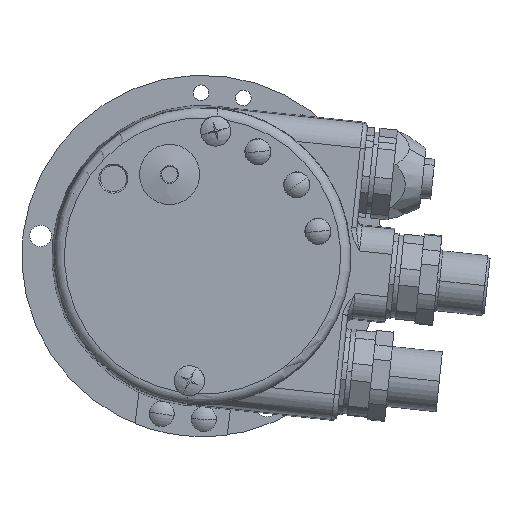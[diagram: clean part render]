
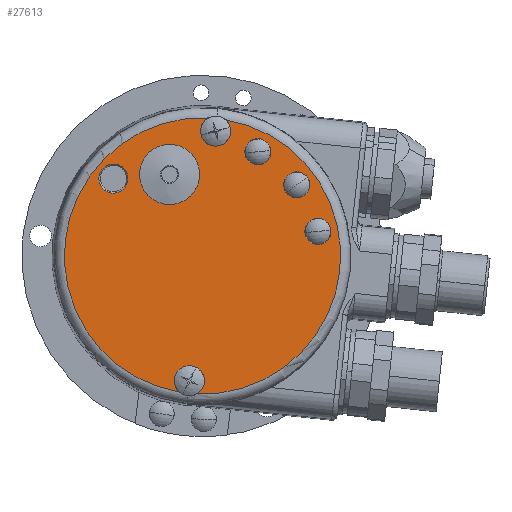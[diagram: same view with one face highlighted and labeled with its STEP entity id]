
A CAD part, left-side view. The second image highlights one B-rep face of the part: STEP entity #27613.
In plain terms, the highlighted planar face has unit normal (-1, 0, 0).
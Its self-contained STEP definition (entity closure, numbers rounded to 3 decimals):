
#13 = EDGE_CURVE ( 'NONE', #8201, #8176, #11959, .T. ) ;
#14 = ORIENTED_EDGE ( 'NONE', *, *, #13, .F. ) ;
#15 = VERTEX_POINT ( 'NONE', #11954 ) ;
#16 = ORIENTED_EDGE ( 'NONE', *, *, #8191, .T. ) ;
#17 = ORIENTED_EDGE ( 'NONE', *, *, #19, .T. ) ;
#18 = VERTEX_POINT ( 'NONE', #11953 ) ;
#19 = EDGE_CURVE ( 'NONE', #8233, #18, #11951, .T. ) ;
#20 = ORIENTED_EDGE ( 'NONE', *, *, #26, .F. ) ;
#21 = VERTEX_POINT ( 'NONE', #11952 ) ;
#22 = ORIENTED_EDGE ( 'NONE', *, *, #32, .F. ) ;
#23 = EDGE_LOOP ( 'NONE', ( #22, #20 ) ) ;
#24 = ORIENTED_EDGE ( 'NONE', *, *, #8319, .F. ) ;
#25 = EDGE_LOOP ( 'NONE', ( #24, #27 ) ) ;
#26 = EDGE_CURVE ( 'NONE', #15, #21, #12008, .T. ) ;
#27 = ORIENTED_EDGE ( 'NONE', *, *, #27516, .F. ) ;
#28 = ORIENTED_EDGE ( 'NONE', *, *, #8200, .F. ) ;
#29 = EDGE_LOOP ( 'NONE', ( #28, #17, #31, #16, #14 ) ) ;
#30 = EDGE_CURVE ( 'NONE', #8192, #18, #12003, .T. ) ;
#31 = ORIENTED_EDGE ( 'NONE', *, *, #30, .F. ) ;
#32 = EDGE_CURVE ( 'NONE', #21, #15, #11998, .T. ) ;
#33 = ORIENTED_EDGE ( 'NONE', *, *, #9322, .F. ) ;
#36 = ORIENTED_EDGE ( 'NONE', *, *, #8446, .F. ) ;
#8176 = VERTEX_POINT ( 'NONE', #14433 ) ;
#8191 = EDGE_CURVE ( 'NONE', #8192, #8176, #14501, .T. ) ;
#8192 = VERTEX_POINT ( 'NONE', #14496 ) ;
#8200 = EDGE_CURVE ( 'NONE', #8233, #8201, #14537, .T. ) ;
#8201 = VERTEX_POINT ( 'NONE', #14532 ) ;
#8233 = VERTEX_POINT ( 'NONE', #14621 ) ;
#8264 = VERTEX_POINT ( 'NONE', #14772 ) ;
#8270 = VERTEX_POINT ( 'NONE', #14813 ) ;
#8306 = EDGE_CURVE ( 'NONE', #8264, #8317, #14892, .T. ) ;
#8317 = VERTEX_POINT ( 'NONE', #14989 ) ;
#8319 = EDGE_CURVE ( 'NONE', #8351, #8332, #14988, .T. ) ;
#8331 = VERTEX_POINT ( 'NONE', #14963 ) ;
#8332 = VERTEX_POINT ( 'NONE', #14962 ) ;
#8351 = VERTEX_POINT ( 'NONE', #15050 ) ;
#8353 = EDGE_CURVE ( 'NONE', #8270, #8331, #15104, .T. ) ;
#8375 = VERTEX_POINT ( 'NONE', #15151 ) ;
#8418 = VERTEX_POINT ( 'NONE', #15243 ) ;
#8446 = EDGE_CURVE ( 'NONE', #8375, #8418, #15375, .T. ) ;
#9315 = EDGE_CURVE ( 'NONE', #8317, #8264, #21919, .T. ) ;
#9322 = EDGE_CURVE ( 'NONE', #8418, #8375, #21996, .T. ) ;
#11947 = DIRECTION ( 'NONE',  ( 0., -0.105, 0.995 ) ) ;
#11948 = DIRECTION ( 'NONE',  ( -1., 0., 0. ) ) ;
#11949 = CARTESIAN_POINT ( 'NONE',  ( -56.295, 0.928, -0.332 ) ) ;
#11950 = AXIS2_PLACEMENT_3D ( 'NONE', #11949, #11948, #11947 ) ;
#11951 = CIRCLE ( 'NONE', #11950, 27.511 ) ;
#11952 = CARTESIAN_POINT ( 'NONE',  ( -56.295, -10.377, 23.003 ) ) ;
#11953 = CARTESIAN_POINT ( 'NONE',  ( -56.295, -3.654, 26.795 ) ) ;
#11954 = CARTESIAN_POINT ( 'NONE',  ( -56.295, -9.833, 17.832 ) ) ;
#11955 = DIRECTION ( 'NONE',  ( 0., -0.105, 0.995 ) ) ;
#11956 = DIRECTION ( 'NONE',  ( -1., 0., 0. ) ) ;
#11957 = CARTESIAN_POINT ( 'NONE',  ( -56.295, 3.541, -25.195 ) ) ;
#11958 = AXIS2_PLACEMENT_3D ( 'NONE', #11957, #11956, #11955 ) ;
#11959 = CIRCLE ( 'NONE', #11958, 3. ) ;
#11994 = DIRECTION ( 'NONE',  ( 0., -0.105, 0.995 ) ) ;
#11995 = DIRECTION ( 'NONE',  ( -1., 0., 0. ) ) ;
#11996 = CARTESIAN_POINT ( 'NONE',  ( -56.295, -10.105, 20.418 ) ) ;
#11997 = AXIS2_PLACEMENT_3D ( 'NONE', #11996, #11995, #11994 ) ;
#11998 = CIRCLE ( 'NONE', #11997, 2.6 ) ;
#11999 = DIRECTION ( 'NONE',  ( 0., -0.105, 0.995 ) ) ;
#12000 = DIRECTION ( 'NONE',  ( -1., 0., 0. ) ) ;
#12001 = CARTESIAN_POINT ( 'NONE',  ( -56.295, -1.686, 24.531 ) ) ;
#12002 = AXIS2_PLACEMENT_3D ( 'NONE', #12001, #12000, #11999 ) ;
#12003 = CIRCLE ( 'NONE', #12002, 3. ) ;
#12004 = DIRECTION ( 'NONE',  ( 0., -0.105, 0.995 ) ) ;
#12005 = DIRECTION ( 'NONE',  ( -1., 0., 0. ) ) ;
#12006 = CARTESIAN_POINT ( 'NONE',  ( -56.295, -10.105, 20.418 ) ) ;
#12007 = AXIS2_PLACEMENT_3D ( 'NONE', #12006, #12005, #12004 ) ;
#12008 = CIRCLE ( 'NONE', #12007, 2.6 ) ;
#14433 = CARTESIAN_POINT ( 'NONE',  ( -56.295, 5.51, -27.458 ) ) ;
#14496 = CARTESIAN_POINT ( 'NONE',  ( -56.295, -0.23, 27.155 ) ) ;
#14497 = DIRECTION ( 'NONE',  ( 0., -0.105, 0.995 ) ) ;
#14498 = DIRECTION ( 'NONE',  ( -1., 0., 0. ) ) ;
#14499 = CARTESIAN_POINT ( 'NONE',  ( -56.295, 0.928, -0.332 ) ) ;
#14500 = AXIS2_PLACEMENT_3D ( 'NONE', #14499, #14498, #14497 ) ;
#14501 = CIRCLE ( 'NONE', #14500, 27.511 ) ;
#14532 = CARTESIAN_POINT ( 'NONE',  ( -56.295, 3.227, -22.211 ) ) ;
#14533 = DIRECTION ( 'NONE',  ( 0., -0.105, 0.995 ) ) ;
#14534 = DIRECTION ( 'NONE',  ( -1., 0., 0. ) ) ;
#14535 = CARTESIAN_POINT ( 'NONE',  ( -56.295, 3.541, -25.195 ) ) ;
#14536 = AXIS2_PLACEMENT_3D ( 'NONE', #14535, #14534, #14533 ) ;
#14537 = CIRCLE ( 'NONE', #14536, 3. ) ;
#14621 = CARTESIAN_POINT ( 'NONE',  ( -56.295, 2.086, -27.818 ) ) ;
#14772 = CARTESIAN_POINT ( 'NONE',  ( -56.295, -21.787, 1.969 ) ) ;
#14813 = CARTESIAN_POINT ( 'NONE',  ( -56.295, 18.36, 17.97 ) ) ;
#14888 = DIRECTION ( 'NONE',  ( 0., -0.105, 0.995 ) ) ;
#14889 = DIRECTION ( 'NONE',  ( -1., 0., 0. ) ) ;
#14890 = CARTESIAN_POINT ( 'NONE',  ( -56.295, -22.059, 4.554 ) ) ;
#14891 = AXIS2_PLACEMENT_3D ( 'NONE', #14890, #14889, #14888 ) ;
#14892 = CIRCLE ( 'NONE', #14891, 2.6 ) ;
#14962 = CARTESIAN_POINT ( 'NONE',  ( -56.295, -18.112, 16.397 ) ) ;
#14963 = CARTESIAN_POINT ( 'NONE',  ( -56.295, 18.966, 12.202 ) ) ;
#14984 = DIRECTION ( 'NONE',  ( 0., -0.105, 0.995 ) ) ;
#14985 = DIRECTION ( 'NONE',  ( -1., 0., 0. ) ) ;
#14986 = CARTESIAN_POINT ( 'NONE',  ( -56.295, -17.84, 13.811 ) ) ;
#14987 = AXIS2_PLACEMENT_3D ( 'NONE', #14986, #14985, #14984 ) ;
#14988 = CIRCLE ( 'NONE', #14987, 2.6 ) ;
#14989 = CARTESIAN_POINT ( 'NONE',  ( -56.295, -22.331, 7.14 ) ) ;
#15050 = CARTESIAN_POINT ( 'NONE',  ( -56.295, -17.568, 11.225 ) ) ;
#15100 = DIRECTION ( 'NONE',  ( 0., -0.105, 0.995 ) ) ;
#15101 = DIRECTION ( 'NONE',  ( 1., 0., 0. ) ) ;
#15102 = CARTESIAN_POINT ( 'NONE',  ( -56.295, 18.663, 15.086 ) ) ;
#15103 = AXIS2_PLACEMENT_3D ( 'NONE', #15102, #15101, #15100 ) ;
#15104 = CIRCLE ( 'NONE', #15103, 2.9 ) ;
#15151 = CARTESIAN_POINT ( 'NONE',  ( -56.295, 6.856, 21.861 ) ) ;
#15243 = CARTESIAN_POINT ( 'NONE',  ( -56.295, 8.11, 9.927 ) ) ;
#15371 = DIRECTION ( 'NONE',  ( 0., -0.105, 0.995 ) ) ;
#15372 = DIRECTION ( 'NONE',  ( -1., 0., 0. ) ) ;
#15373 = CARTESIAN_POINT ( 'NONE',  ( -56.295, 7.483, 15.894 ) ) ;
#15374 = AXIS2_PLACEMENT_3D ( 'NONE', #15373, #15372, #15371 ) ;
#15375 = CIRCLE ( 'NONE', #15374, 6. ) ;
#15762 = DIRECTION ( 'NONE',  ( 0., -0.105, 0.995 ) ) ;
#15763 = DIRECTION ( 'NONE',  ( -1., 0., 0. ) ) ;
#15764 = CARTESIAN_POINT ( 'NONE',  ( -56.295, -17.84, 13.811 ) ) ;
#15765 = AXIS2_PLACEMENT_3D ( 'NONE', #15764, #15763, #15762 ) ;
#15766 = CIRCLE ( 'NONE', #15765, 2.6 ) ;
#15955 = FACE_BOUND ( 'NONE', #27652, .T. ) ;
#15956 = FACE_OUTER_BOUND ( 'NONE', #29, .T. ) ;
#15957 = FACE_BOUND ( 'NONE', #25, .T. ) ;
#15958 = FACE_BOUND ( 'NONE', #23, .T. ) ;
#15959 = FACE_BOUND ( 'NONE', #27589, .T. ) ;
#15960 = FACE_BOUND ( 'NONE', #27588, .T. ) ;
#16001 = DIRECTION ( 'NONE',  ( 0., -0.105, 0.995 ) ) ;
#16002 = DIRECTION ( 'NONE',  ( -1., 0., 0. ) ) ;
#16003 = CARTESIAN_POINT ( 'NONE',  ( -56.295, 0.928, -0.332 ) ) ;
#16004 = AXIS2_PLACEMENT_3D ( 'NONE', #16003, #16002, #16001 ) ;
#16005 = PLANE ( 'NONE',  #16004 ) ;
#16114 = DIRECTION ( 'NONE',  ( 0., -0.105, 0.995 ) ) ;
#16115 = DIRECTION ( 'NONE',  ( 1., 0., 0. ) ) ;
#16116 = CARTESIAN_POINT ( 'NONE',  ( -56.295, 18.663, 15.086 ) ) ;
#16117 = AXIS2_PLACEMENT_3D ( 'NONE', #16116, #16115, #16114 ) ;
#16118 = CIRCLE ( 'NONE', #16117, 2.9 ) ;
#21912 = DIRECTION ( 'NONE',  ( 0., -0.105, 0.995 ) ) ;
#21914 = DIRECTION ( 'NONE',  ( -1., 0., 0. ) ) ;
#21916 = CARTESIAN_POINT ( 'NONE',  ( -56.295, -22.059, 4.554 ) ) ;
#21917 = AXIS2_PLACEMENT_3D ( 'NONE', #21916, #21914, #21912 ) ;
#21919 = CIRCLE ( 'NONE', #21917, 2.6 ) ;
#21991 = DIRECTION ( 'NONE',  ( 0., -0.105, 0.995 ) ) ;
#21993 = DIRECTION ( 'NONE',  ( -1., 0., 0. ) ) ;
#21994 = AXIS2_PLACEMENT_3D ( 'NONE', #22008, #21993, #21991 ) ;
#21996 = CIRCLE ( 'NONE', #21994, 6. ) ;
#22008 = CARTESIAN_POINT ( 'NONE',  ( -56.295, 7.483, 15.894 ) ) ;
#27516 = EDGE_CURVE ( 'NONE', #8332, #8351, #15766, .T. ) ;
#27581 = ORIENTED_EDGE ( 'NONE', *, *, #8306, .F. ) ;
#27586 = ORIENTED_EDGE ( 'NONE', *, *, #9315, .F. ) ;
#27587 = ORIENTED_EDGE ( 'NONE', *, *, #8353, .T. ) ;
#27588 = EDGE_LOOP ( 'NONE', ( #27587, #27606 ) ) ;
#27589 = EDGE_LOOP ( 'NONE', ( #27581, #27586 ) ) ;
#27606 = ORIENTED_EDGE ( 'NONE', *, *, #27653, .T. ) ;
#27613 = ADVANCED_FACE ( 'NONE', ( #15960, #15959, #15958, #15957, #15956, #15955 ), #16005, .T. ) ;
#27652 = EDGE_LOOP ( 'NONE', ( #33, #36 ) ) ;
#27653 = EDGE_CURVE ( 'NONE', #8331, #8270, #16118, .T. ) ;
